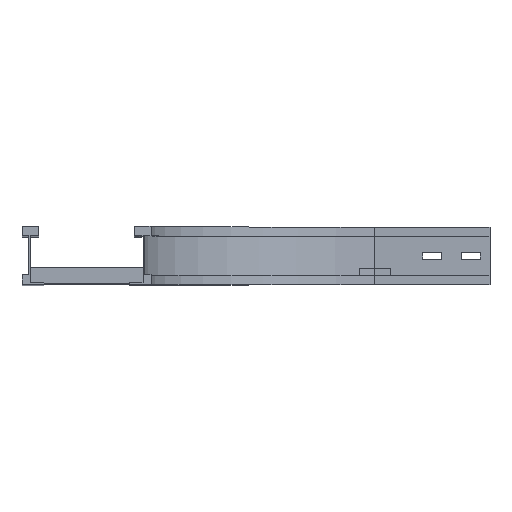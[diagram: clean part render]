
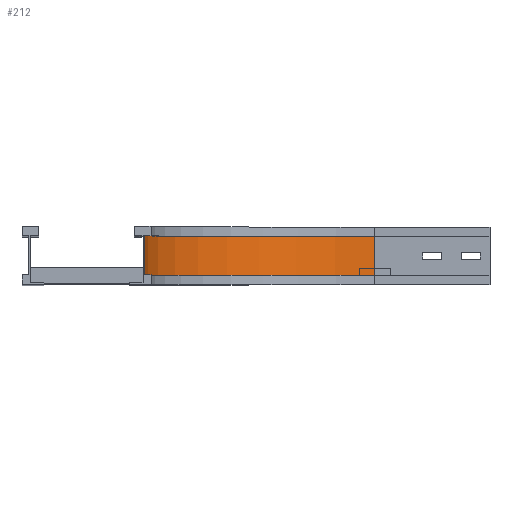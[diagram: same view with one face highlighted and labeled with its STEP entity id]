
A CAD part, top view. The second image highlights one B-rep face of the part: STEP entity #212.
In plain terms, the highlighted cylindrical face has radius 300 mm (diameter 600 mm), a partial arc.
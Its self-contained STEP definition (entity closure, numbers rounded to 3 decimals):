
#3 = DIRECTION ( 'NONE',  ( 0., 0., -1. ) ) ;
#61 = CYLINDRICAL_SURFACE ( 'NONE', #2002, 300. ) ;
#87 = CARTESIAN_POINT ( 'NONE',  ( -9., 63., -150. ) ) ;
#212 = ADVANCED_FACE ( 'NONE', ( #1535 ), #61, .F. ) ;
#564 = CARTESIAN_POINT ( 'NONE',  ( 291., 12., -450. ) ) ;
#620 = CARTESIAN_POINT ( 'NONE',  ( -9., 12., -150. ) ) ;
#688 = CARTESIAN_POINT ( 'NONE',  ( 291., 12., -450. ) ) ;
#765 = ORIENTED_EDGE ( 'NONE', *, *, #2771, .F. ) ;
#1028 = DIRECTION ( 'NONE',  ( 0., 1., 0. ) ) ;
#1048 = AXIS2_PLACEMENT_3D ( 'NONE', #3192, #1948, #2173 ) ;
#1122 = CARTESIAN_POINT ( 'NONE',  ( -9., 12., -150. ) ) ;
#1140 = ORIENTED_EDGE ( 'NONE', *, *, #2034, .T. ) ;
#1331 = EDGE_CURVE ( 'NONE', #1609, #2353, #2383, .T. ) ;
#1366 = ORIENTED_EDGE ( 'NONE', *, *, #1331, .F. ) ;
#1523 = DIRECTION ( 'NONE',  ( 0., -1., 0. ) ) ;
#1535 = FACE_OUTER_BOUND ( 'NONE', #1725, .T. ) ;
#1543 = DIRECTION ( 'NONE',  ( -1., 0., 0. ) ) ;
#1546 = VERTEX_POINT ( 'NONE', #3144 ) ;
#1609 = VERTEX_POINT ( 'NONE', #620 ) ;
#1618 = ORIENTED_EDGE ( 'NONE', *, *, #2952, .T. ) ;
#1725 = EDGE_LOOP ( 'NONE', ( #765, #1366, #1618, #1140 ) ) ;
#1882 = VECTOR ( 'NONE', #1028, 1000. ) ;
#1948 = DIRECTION ( 'NONE',  ( 0., -1., 0. ) ) ;
#2001 = VERTEX_POINT ( 'NONE', #688 ) ;
#2002 = AXIS2_PLACEMENT_3D ( 'NONE', #2264, #2767, #3 ) ;
#2019 = CARTESIAN_POINT ( 'NONE',  ( 291., 63., -150. ) ) ;
#2034 = EDGE_CURVE ( 'NONE', #2001, #1546, #2826, .T. ) ;
#2063 = CIRCLE ( 'NONE', #1048, 300. ) ;
#2081 = VECTOR ( 'NONE', #2141, 1000. ) ;
#2141 = DIRECTION ( 'NONE',  ( 0., 1., 0. ) ) ;
#2173 = DIRECTION ( 'NONE',  ( -1., 0., 0. ) ) ;
#2255 = CIRCLE ( 'NONE', #2558, 300. ) ;
#2264 = CARTESIAN_POINT ( 'NONE',  ( 291., 0., -150. ) ) ;
#2353 = VERTEX_POINT ( 'NONE', #87 ) ;
#2383 = LINE ( 'NONE', #1122, #2081 ) ;
#2558 = AXIS2_PLACEMENT_3D ( 'NONE', #2019, #1523, #1543 ) ;
#2767 = DIRECTION ( 'NONE',  ( 0., -1., 0. ) ) ;
#2771 = EDGE_CURVE ( 'NONE', #2353, #1546, #2255, .T. ) ;
#2826 = LINE ( 'NONE', #564, #1882 ) ;
#2952 = EDGE_CURVE ( 'NONE', #1609, #2001, #2063, .T. ) ;
#3144 = CARTESIAN_POINT ( 'NONE',  ( 291., 63., -450. ) ) ;
#3192 = CARTESIAN_POINT ( 'NONE',  ( 291., 12., -150. ) ) ;
